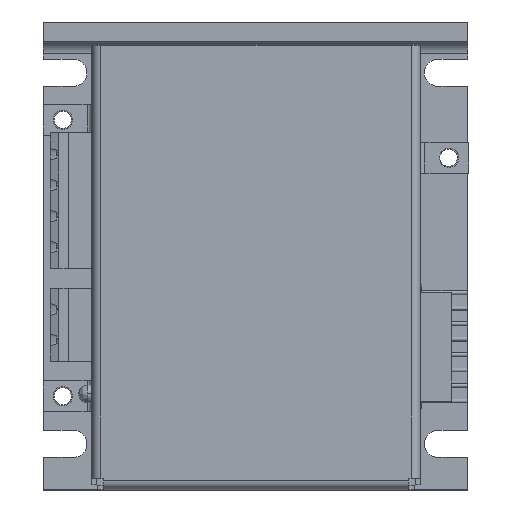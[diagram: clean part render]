
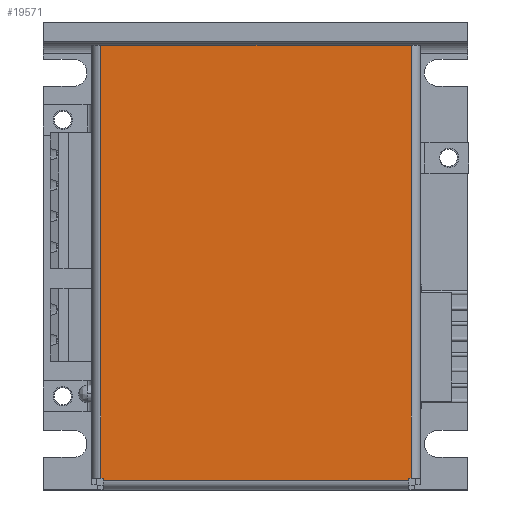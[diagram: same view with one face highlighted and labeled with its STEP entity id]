
A CAD part, top view. The second image highlights one B-rep face of the part: STEP entity #19571.
In plain terms, the highlighted planar face has unit normal (0, 0, 1).
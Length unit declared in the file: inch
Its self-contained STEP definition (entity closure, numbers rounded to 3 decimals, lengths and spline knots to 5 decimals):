
#2588 = CARTESIAN_POINT ( 'NONE',  ( -0.9875, -0.03, 0.875 ) ) ;
#2617 = LINE ( 'NONE', #2588, #27771 ) ;
#2622 = LINE ( 'NONE', #2623, #27774 ) ;
#2623 = CARTESIAN_POINT ( 'NONE',  ( 0., 1.3775, 0.875 ) ) ;
#2624 = DIRECTION ( 'NONE',  ( -1., 0., 0. ) ) ;
#2626 = DIRECTION ( 'NONE',  ( 0., -1., 0. ) ) ;
#2628 = LINE ( 'NONE', #2631, #27772 ) ;
#2631 = CARTESIAN_POINT ( 'NONE',  ( 0.9875, -0.03, 0.875 ) ) ;
#2633 = DIRECTION ( 'NONE',  ( 0., 1., 0. ) ) ;
#2635 = CARTESIAN_POINT ( 'NONE',  ( -1.0025, -0.03, 0.875 ) ) ;
#2642 = LINE ( 'NONE', #2635, #27780 ) ;
#2648 = LINE ( 'NONE', #2663, #27779 ) ;
#2654 = DIRECTION ( 'NONE',  ( 0., -1., 0. ) ) ;
#2663 = CARTESIAN_POINT ( 'NONE',  ( 0., 1.3625, 0.875 ) ) ;
#2664 = DIRECTION ( 'NONE',  ( -1., 0., 0. ) ) ;
#6896 = CARTESIAN_POINT ( 'NONE',  ( -0.9875, 1.3625, 0.875 ) ) ;
#6903 = CARTESIAN_POINT ( 'NONE',  ( -1.0025, 1.3625, 0.875 ) ) ;
#6922 = CARTESIAN_POINT ( 'NONE',  ( -1.0025, -1.4375, 0.875 ) ) ;
#6923 = CARTESIAN_POINT ( 'NONE',  ( 0.9875, 1.3625, 0.875 ) ) ;
#6925 = CARTESIAN_POINT ( 'NONE',  ( 0.9875, 1.3775, 0.875 ) ) ;
#6926 = CARTESIAN_POINT ( 'NONE',  ( -0.9875, 1.3775, 0.875 ) ) ;
#6938 = CARTESIAN_POINT ( 'NONE',  ( 1.0025, -1.4375, 0.875 ) ) ;
#6940 = CARTESIAN_POINT ( 'NONE',  ( 1.0025, 1.3625, 0.875 ) ) ;
#11765 = FACE_OUTER_BOUND ( 'NONE', #20658, .T. ) ;
#11766 = PLANE ( 'NONE',  #16563 ) ;
#11778 = CARTESIAN_POINT ( 'NONE',  ( -1.0025, -1.4375, 0.875 ) ) ;
#11779 = DIRECTION ( 'NONE',  ( 0., 0., 1. ) ) ;
#11780 = DIRECTION ( 'NONE',  ( 1., 0., 0. ) ) ;
#16563 = AXIS2_PLACEMENT_3D ( 'NONE', #11778, #11779, #11780 ) ;
#19571 = ADVANCED_FACE ( 'NONE', ( #11765 ), #11766, .T. ) ;
#20307 = VERTEX_POINT ( 'NONE', #6896 ) ;
#20314 = VERTEX_POINT ( 'NONE', #6903 ) ;
#20333 = VERTEX_POINT ( 'NONE', #6922 ) ;
#20334 = VERTEX_POINT ( 'NONE', #6923 ) ;
#20336 = VERTEX_POINT ( 'NONE', #6925 ) ;
#20337 = VERTEX_POINT ( 'NONE', #6926 ) ;
#20349 = VERTEX_POINT ( 'NONE', #6938 ) ;
#20351 = VERTEX_POINT ( 'NONE', #6940 ) ;
#20658 = EDGE_LOOP ( 'NONE', ( #25588, #25589, #25590, #25591, #25592, #25593, #25594, #25595 ) ) ;
#25588 = ORIENTED_EDGE ( 'NONE', *, *, #28066, .T. ) ;
#25589 = ORIENTED_EDGE ( 'NONE', *, *, #28068, .T. ) ;
#25590 = ORIENTED_EDGE ( 'NONE', *, *, #28083, .T. ) ;
#25591 = ORIENTED_EDGE ( 'NONE', *, *, #28079, .T. ) ;
#25592 = ORIENTED_EDGE ( 'NONE', *, *, #28428, .T. ) ;
#25593 = ORIENTED_EDGE ( 'NONE', *, *, #28421, .T. ) ;
#25594 = ORIENTED_EDGE ( 'NONE', *, *, #28424, .T. ) ;
#25595 = ORIENTED_EDGE ( 'NONE', *, *, #28070, .T. ) ;
#27771 = VECTOR ( 'NONE', #2626, 39.37008 ) ;
#27772 = VECTOR ( 'NONE', #2633, 39.37008 ) ;
#27774 = VECTOR ( 'NONE', #2624, 39.37008 ) ;
#27779 = VECTOR ( 'NONE', #2664, 39.37008 ) ;
#27780 = VECTOR ( 'NONE', #2654, 39.37008 ) ;
#27961 = VECTOR ( 'NONE', #30006, 39.37008 ) ;
#27963 = VECTOR ( 'NONE', #30009, 39.37008 ) ;
#27965 = VECTOR ( 'NONE', #30015, 39.37008 ) ;
#28066 = EDGE_CURVE ( 'NONE', #20336, #20337, #2622, .T. ) ;
#28068 = EDGE_CURVE ( 'NONE', #20337, #20307, #2617, .T. ) ;
#28070 = EDGE_CURVE ( 'NONE', #20334, #20336, #2628, .T. ) ;
#28079 = EDGE_CURVE ( 'NONE', #20314, #20333, #2642, .T. ) ;
#28083 = EDGE_CURVE ( 'NONE', #20307, #20314, #2648, .T. ) ;
#28421 = EDGE_CURVE ( 'NONE', #20349, #20351, #29999, .T. ) ;
#28424 = EDGE_CURVE ( 'NONE', #20351, #20334, #30007, .T. ) ;
#28428 = EDGE_CURVE ( 'NONE', #20333, #20349, #30013, .T. ) ;
#29996 = CARTESIAN_POINT ( 'NONE',  ( 1.0025, -0.0375, 0.875 ) ) ;
#29999 = LINE ( 'NONE', #29996, #27961 ) ;
#30006 = DIRECTION ( 'NONE',  ( 0., 1., 0. ) ) ;
#30007 = LINE ( 'NONE', #30008, #27963 ) ;
#30008 = CARTESIAN_POINT ( 'NONE',  ( 0., 1.3625, 0.875 ) ) ;
#30009 = DIRECTION ( 'NONE',  ( -1., 0., 0. ) ) ;
#30013 = LINE ( 'NONE', #30014, #27965 ) ;
#30014 = CARTESIAN_POINT ( 'NONE',  ( 0., -1.4375, 0.875 ) ) ;
#30015 = DIRECTION ( 'NONE',  ( 1., 0., 0. ) ) ;
